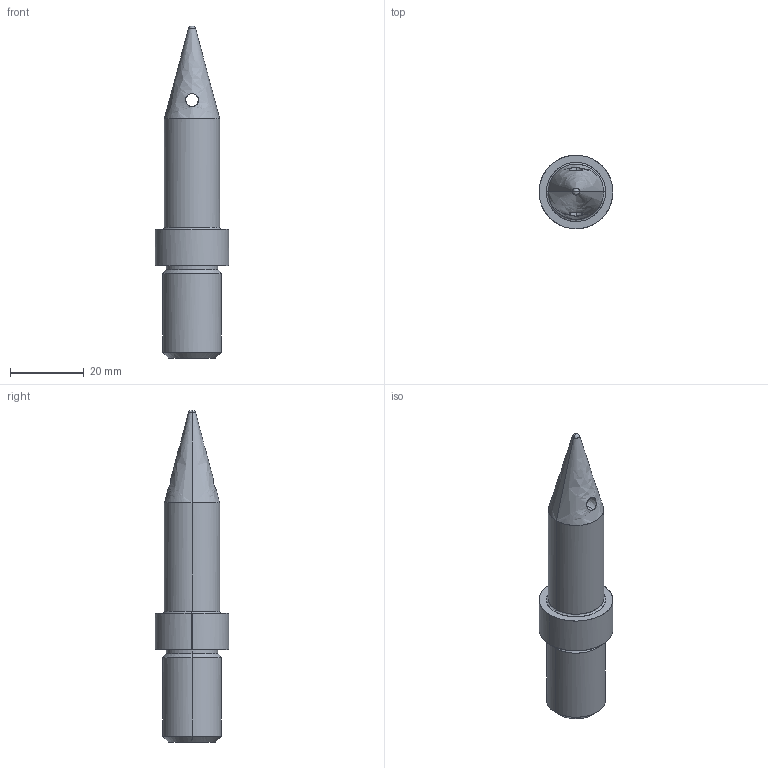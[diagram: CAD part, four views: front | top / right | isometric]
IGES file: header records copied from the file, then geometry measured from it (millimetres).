
Global section: file name: E:\UnigraphicsGraphicData\MISUMI_PRESS-PARTS\IGES\3d_slpsh20-p15.00-b30-t10_02960_r00.igs; native system: NX V5.0; preprocessor: UGS NX IGES V5.0; author: MISUMI; date: 20110105.162802; units: millimetre
Bounding box: 20 x 20 x 90.13 mm (x, y, z)
Surface area: 4532 mm2 (no closed solid volume)
Topology: 0 solids, 0 shells, 25 faces, 154 edges, 152 vertices
Faces by surface type: bspline 25
